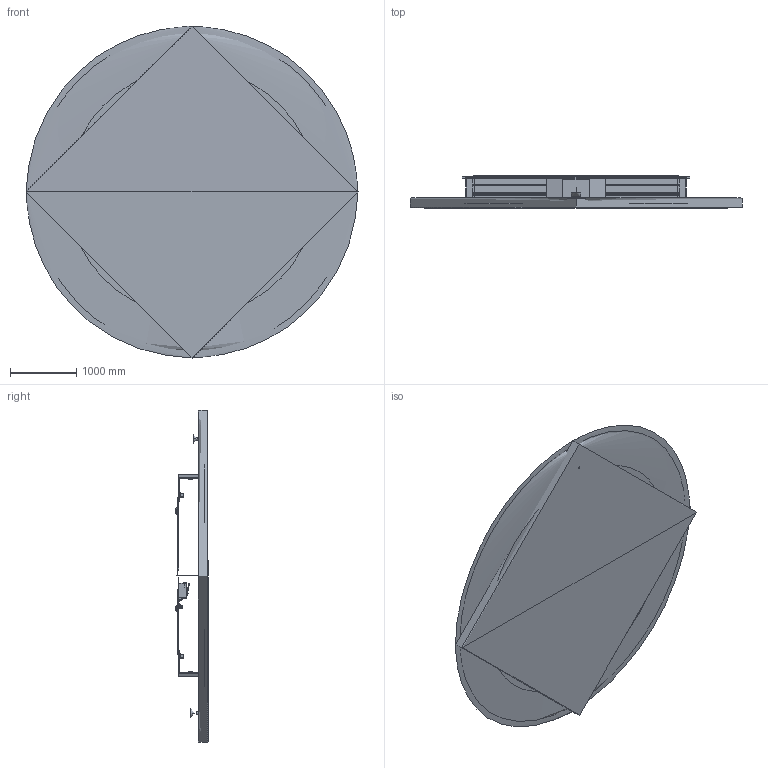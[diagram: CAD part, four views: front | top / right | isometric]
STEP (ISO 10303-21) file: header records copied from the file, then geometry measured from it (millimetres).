
FILE_DESCRIPTION(/* description */ (''),/* implementation_level */ '2;1');
FILE_NAME(/* name */ '4582',/* time_stamp */ '2022-02-01T16:41:44+01:00',/* author */ (''),/* organization */ (''),/* preprocessor_version */ 'ST-DEVELOPER v16.5',/* originating_system */ '',/* authorisation */ '');
FILE_SCHEMA (('CONFIG_CONTROL_DESIGN'));
Length unit declared in the file: centimetre
Products named in the file (1): Document
Bounding box: 5000 x 483.82 x 5000 mm (x, y, z)
Volume: 1921092771.4 mm3; surface area: 81792848.5 mm2
Topology: 12 solids, 26 shells, 611 faces, 1644 edges, 1066 vertices
Faces by surface type: plane 285, cylinder 258, bspline 68
Entity records: 18347 total; most frequent: CARTESIAN_POINT 7693, ORIENTED_EDGE 3168, EDGE_CURVE 1636, VERTEX_POINT 1062, B_SPLINE_CURVE_WITH_KNOTS 974, EDGE_LOOP 716, ADVANCED_FACE 611, FACE_OUTER_BOUND 611
